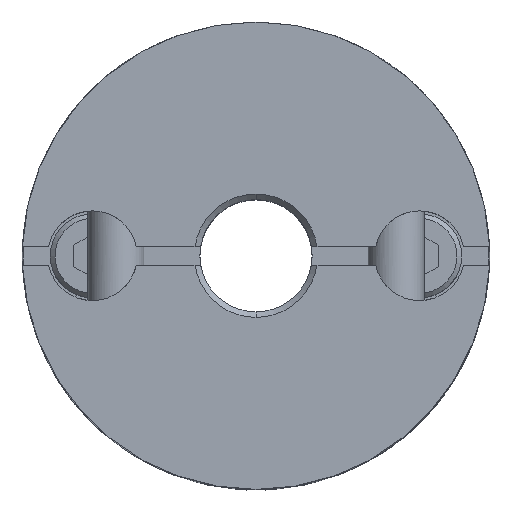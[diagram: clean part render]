
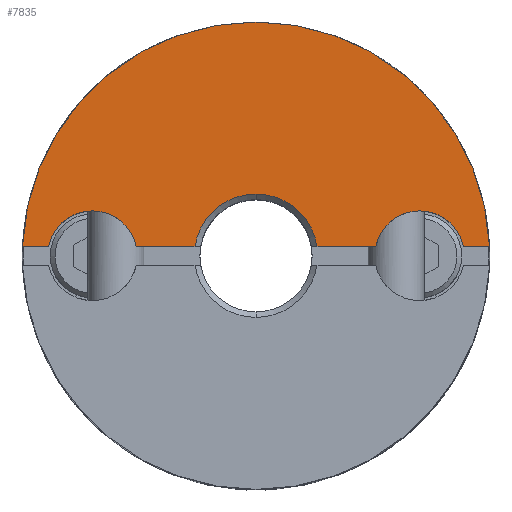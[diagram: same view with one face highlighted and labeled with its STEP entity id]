
A CAD part, top view. The second image highlights one B-rep face of the part: STEP entity #7835.
In plain terms, the highlighted planar face has unit normal (0, 0, 1).
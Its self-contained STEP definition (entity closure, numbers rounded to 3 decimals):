
#809=CARTESIAN_POINT('',(0.,12.5,11.7));
#810=VERTEX_POINT('',#809);
#817=CARTESIAN_POINT('',(12.49,0.5,11.7));
#818=VERTEX_POINT('',#817);
#819=CARTESIAN_POINT('',(0.,0.0,11.7));
#820=DIRECTION('',(0.0,0.0,-1.0));
#821=DIRECTION('',(0.0,-1.0,0.0));
#822=AXIS2_PLACEMENT_3D('',#819,#820,#821);
#823=CIRCLE('',#822,12.5);
#824=EDGE_CURVE('',#810,#818,#823,.T.);
#1028=CARTESIAN_POINT('',(0.,3.3,11.7));
#1029=VERTEX_POINT('',#1028);
#1037=CARTESIAN_POINT('',(3.262,0.5,11.7));
#1038=VERTEX_POINT('',#1037);
#1052=CARTESIAN_POINT('',(0.,0.0,11.7));
#1053=DIRECTION('',(0.0,0.0,1.0));
#1054=DIRECTION('',(0.0,1.0,0.0));
#1055=AXIS2_PLACEMENT_3D('',#1052,#1053,#1054);
#1056=CIRCLE('',#1055,3.3);
#1057=EDGE_CURVE('',#1038,#1029,#1056,.T.);
#1428=CARTESIAN_POINT('',(8.75,2.4,11.7));
#1429=VERTEX_POINT('',#1428);
#1436=CARTESIAN_POINT('',(6.403,0.5,11.7));
#1437=VERTEX_POINT('',#1436);
#1438=CARTESIAN_POINT('',(8.75,0.,11.7));
#1439=DIRECTION('',(0.0,0.0,-1.0));
#1440=DIRECTION('',(0.0,-1.0,0.0));
#1441=AXIS2_PLACEMENT_3D('',#1438,#1439,#1440);
#1442=CIRCLE('',#1441,2.4);
#1443=EDGE_CURVE('',#1437,#1429,#1442,.T.);
#1503=CARTESIAN_POINT('',(11.097,0.5,11.7));
#1504=VERTEX_POINT('',#1503);
#1511=CARTESIAN_POINT('',(8.75,0.,11.7));
#1512=DIRECTION('',(0.0,0.0,-1.0));
#1513=DIRECTION('',(0.0,-1.0,0.0));
#1514=AXIS2_PLACEMENT_3D('',#1511,#1512,#1513);
#1515=CIRCLE('',#1514,2.4);
#1516=EDGE_CURVE('',#1429,#1504,#1515,.T.);
#1837=CARTESIAN_POINT('',(-8.75,2.4,11.7));
#1838=VERTEX_POINT('',#1837);
#1870=CARTESIAN_POINT('',(-6.403,0.5,11.7));
#1871=VERTEX_POINT('',#1870);
#1878=CARTESIAN_POINT('',(-8.75,0.,11.7));
#1879=DIRECTION('',(0.0,0.0,-1.0));
#1880=DIRECTION('',(0.0,-1.0,0.0));
#1881=AXIS2_PLACEMENT_3D('',#1878,#1879,#1880);
#1882=CIRCLE('',#1881,2.4);
#1883=EDGE_CURVE('',#1838,#1871,#1882,.T.);
#6343=CARTESIAN_POINT('',(-11.097,0.5,11.7));
#6344=VERTEX_POINT('',#6343);
#6345=CARTESIAN_POINT('',(-8.75,0.,11.7));
#6346=DIRECTION('',(0.0,0.0,-1.0));
#6347=DIRECTION('',(0.0,-1.0,0.0));
#6348=AXIS2_PLACEMENT_3D('',#6345,#6346,#6347);
#6349=CIRCLE('',#6348,2.4);
#6350=EDGE_CURVE('',#6344,#1838,#6349,.T.);
#6870=CARTESIAN_POINT('',(3.262,0.5,11.7));
#6871=DIRECTION('',(1.0,0.0,0.0));
#6872=VECTOR('',#6871,3.141);
#6873=LINE('',#6870,#6872);
#6874=EDGE_CURVE('',#1038,#1437,#6873,.T.);
#6938=CARTESIAN_POINT('',(-3.262,0.5,11.7));
#6939=VERTEX_POINT('',#6938);
#6953=CARTESIAN_POINT('',(-6.403,0.5,11.7));
#6954=DIRECTION('',(1.0,0.0,0.0));
#6955=VECTOR('',#6954,3.141);
#6956=LINE('',#6953,#6955);
#6957=EDGE_CURVE('',#1871,#6939,#6956,.T.);
#7613=CARTESIAN_POINT('',(-12.49,0.5,11.7));
#7614=VERTEX_POINT('',#7613);
#7615=CARTESIAN_POINT('',(-12.49,0.5,11.7));
#7616=DIRECTION('',(1.0,0.0,0.0));
#7617=VECTOR('',#7616,1.393);
#7618=LINE('',#7615,#7617);
#7619=EDGE_CURVE('',#7614,#6344,#7618,.T.);
#7719=CARTESIAN_POINT('',(11.097,0.5,11.7));
#7720=DIRECTION('',(1.0,0.0,0.0));
#7721=VECTOR('',#7720,1.393);
#7722=LINE('',#7719,#7721);
#7723=EDGE_CURVE('',#1504,#818,#7722,.T.);
#7804=CARTESIAN_POINT('',(0.,-1.136,11.7));
#7805=DIRECTION('',(0.0,0.0,1.0));
#7806=DIRECTION('',(0.0,-1.0,0.0));
#7807=AXIS2_PLACEMENT_3D('',#7804,#7805,#7806);
#7808=PLANE('',#7807);
#7809=ORIENTED_EDGE('',*,*,#6350,.T.);
#7810=ORIENTED_EDGE('',*,*,#1883,.T.);
#7811=ORIENTED_EDGE('',*,*,#6957,.T.);
#7812=CARTESIAN_POINT('',(0.,0.0,11.7));
#7813=DIRECTION('',(0.0,0.0,1.0));
#7814=DIRECTION('',(0.0,1.0,0.0));
#7815=AXIS2_PLACEMENT_3D('',#7812,#7813,#7814);
#7816=CIRCLE('',#7815,3.3);
#7817=EDGE_CURVE('',#1029,#6939,#7816,.T.);
#7818=ORIENTED_EDGE('',*,*,#7817,.F.);
#7819=ORIENTED_EDGE('',*,*,#1057,.F.);
#7820=ORIENTED_EDGE('',*,*,#6874,.T.);
#7821=ORIENTED_EDGE('',*,*,#1443,.T.);
#7822=ORIENTED_EDGE('',*,*,#1516,.T.);
#7823=ORIENTED_EDGE('',*,*,#7723,.T.);
#7824=ORIENTED_EDGE('',*,*,#824,.F.);
#7825=CARTESIAN_POINT('',(0.,0.0,11.7));
#7826=DIRECTION('',(0.0,0.0,-1.0));
#7827=DIRECTION('',(0.0,-1.0,0.0));
#7828=AXIS2_PLACEMENT_3D('',#7825,#7826,#7827);
#7829=CIRCLE('',#7828,12.5);
#7830=EDGE_CURVE('',#7614,#810,#7829,.T.);
#7831=ORIENTED_EDGE('',*,*,#7830,.F.);
#7832=ORIENTED_EDGE('',*,*,#7619,.T.);
#7833=EDGE_LOOP('',(#7809,#7810,#7811,#7818,#7819,#7820,#7821,#7822,#7823,#7824,#7831,#7832));
#7834=FACE_OUTER_BOUND('',#7833,.T.);
#7835=ADVANCED_FACE('',(#7834),#7808,.T.);
